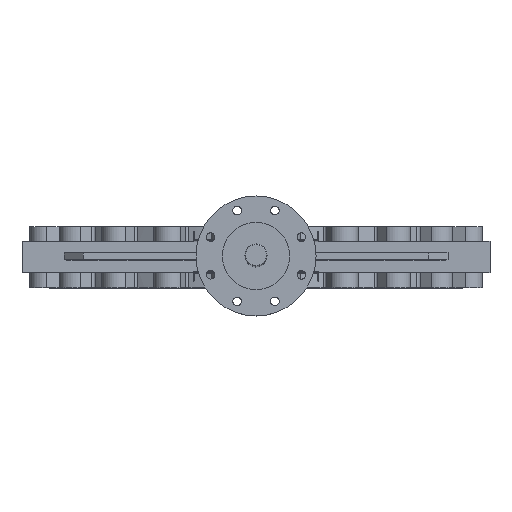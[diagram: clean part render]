
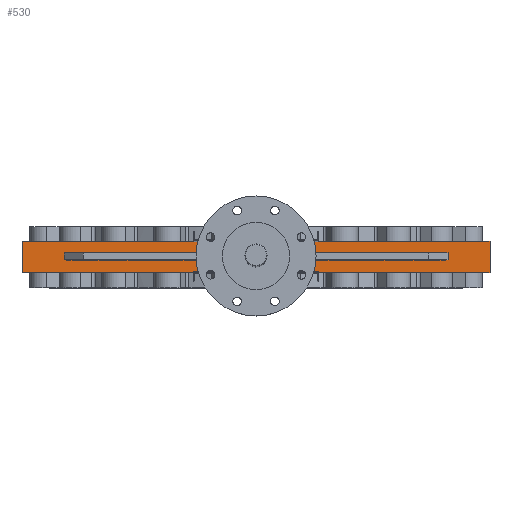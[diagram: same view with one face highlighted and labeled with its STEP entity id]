
A CAD part, top view. The second image highlights one B-rep face of the part: STEP entity #530.
In plain terms, the highlighted planar face has unit normal (0, 0, 1).
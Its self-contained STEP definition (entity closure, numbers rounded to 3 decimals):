
#530=ADVANCED_FACE('',(#3559,#3561),#3563,.T.);
#3559=FACE_BOUND('',#3560,.T.);
#3560=EDGE_LOOP('',(#6117,#6118,#6119,#6120,#6121,#6122,#6123,#6124,#6125,#6126,
#6127,#6128));
#3561=FACE_BOUND('',#3562,.T.);
#3562=EDGE_LOOP('',(#6129,#6130,#6131,#6132));
#3563=PLANE('',#3564);
#3564=AXIS2_PLACEMENT_3D('',#3565,#3566,#3567);
#3565=CARTESIAN_POINT('',(-487.5,-32.5,587.5));
#3566=DIRECTION('',(0.,0.,1.));
#3567=DIRECTION('',(1.,0.,0.));
#6117=ORIENTED_EDGE('',*,*,#7713,.T.);
#6118=ORIENTED_EDGE('',*,*,#7756,.T.);
#6119=ORIENTED_EDGE('',*,*,#7755,.F.);
#6120=ORIENTED_EDGE('',*,*,#7752,.F.);
#6121=ORIENTED_EDGE('',*,*,#7750,.T.);
#6122=ORIENTED_EDGE('',*,*,#7735,.T.);
#6123=ORIENTED_EDGE('',*,*,#7720,.T.);
#6124=ORIENTED_EDGE('',*,*,#7748,.T.);
#6125=ORIENTED_EDGE('',*,*,#7747,.T.);
#6126=ORIENTED_EDGE('',*,*,#7745,.T.);
#6127=ORIENTED_EDGE('',*,*,#7742,.F.);
#6128=ORIENTED_EDGE('',*,*,#7740,.T.);
#6129=ORIENTED_EDGE('',*,*,#7767,.T.);
#6130=ORIENTED_EDGE('',*,*,#7768,.T.);
#6131=ORIENTED_EDGE('',*,*,#7769,.T.);
#6132=ORIENTED_EDGE('',*,*,#7770,.T.);
#7713=EDGE_CURVE('',#8689,#8690,#8691,.T.);
#7720=EDGE_CURVE('',#8700,#8701,#8702,.F.);
#7735=EDGE_CURVE('',#8728,#8700,#8729,.F.);
#7740=EDGE_CURVE('',#8734,#8689,#8735,.T.);
#7742=EDGE_CURVE('',#8734,#8737,#8738,.T.);
#7745=EDGE_CURVE('',#8740,#8737,#8742,.T.);
#7747=EDGE_CURVE('',#8743,#8740,#8745,.T.);
#7748=EDGE_CURVE('',#8701,#8743,#8746,.F.);
#7750=EDGE_CURVE('',#8748,#8728,#8749,.T.);
#7752=EDGE_CURVE('',#8748,#8751,#8752,.T.);
#7755=EDGE_CURVE('',#8751,#8754,#8756,.T.);
#7756=EDGE_CURVE('',#8690,#8754,#8757,.T.);
#7767=EDGE_CURVE('',#8772,#8773,#8774,.T.);
#7768=EDGE_CURVE('',#8773,#8775,#8776,.T.);
#7769=EDGE_CURVE('',#8775,#8777,#8778,.F.);
#7770=EDGE_CURVE('',#8777,#8772,#8779,.F.);
#8689=VERTEX_POINT('',#10449);
#8690=VERTEX_POINT('',#10450);
#8691=LINE('',#10451,#10452);
#8700=VERTEX_POINT('',#10475);
#8701=VERTEX_POINT('',#10476);
#8702=LINE('',#10477,#10478);
#8728=VERTEX_POINT('',#10542);
#8729=LINE('',#10543,#10544);
#8734=VERTEX_POINT('',#10558);
#8735=LINE('',#10559,#10560);
#8737=VERTEX_POINT('',#10565);
#8738=LINE('',#10566,#10567);
#8740=VERTEX_POINT('',#10572);
#8742=LINE('',#10576,#10577);
#8743=VERTEX_POINT('',#10579);
#8745=LINE('',#10583,#10584);
#8746=LINE('',#10586,#10587);
#8748=VERTEX_POINT('',#10592);
#8749=LINE('',#10593,#10594);
#8751=VERTEX_POINT('',#10599);
#8752=LINE('',#10600,#10601);
#8754=VERTEX_POINT('',#10606);
#8756=LINE('',#10610,#10611);
#8757=LINE('',#10613,#10614);
#8772=VERTEX_POINT('',#10650);
#8773=VERTEX_POINT('',#10651);
#8774=LINE('',#10652,#10653);
#8775=VERTEX_POINT('',#10655);
#8776=LINE('',#10656,#10657);
#8777=VERTEX_POINT('',#10659);
#8778=LINE('',#10660,#10661);
#8779=LINE('',#10663,#10664);
#10449=CARTESIAN_POINT('',(130.,32.,587.5));
#10450=CARTESIAN_POINT('',(-130.,32.,587.5));
#10451=CARTESIAN_POINT('',(130.,32.,587.5));
#10452=VECTOR('',#10453,1.);
#10453=DIRECTION('',(-1.,0.,0.));
#10475=CARTESIAN_POINT('',(-130.,-32.,587.5));
#10476=CARTESIAN_POINT('',(130.,-32.,587.5));
#10477=CARTESIAN_POINT('',(130.,-32.,587.5));
#10478=VECTOR('',#10479,1.);
#10479=DIRECTION('',(-1.,0.,0.));
#10542=CARTESIAN_POINT('',(-130.,-32.5,587.5));
#10543=CARTESIAN_POINT('',(-130.,-32.,587.5));
#10544=VECTOR('',#10545,1.);
#10545=DIRECTION('',(0.,-1.,0.));
#10558=CARTESIAN_POINT('',(130.,32.5,587.5));
#10559=CARTESIAN_POINT('',(130.,32.5,587.5));
#10560=VECTOR('',#10561,1.);
#10561=DIRECTION('',(0.,-1.,0.));
#10565=CARTESIAN_POINT('',(487.5,32.5,587.5));
#10566=CARTESIAN_POINT('',(130.,32.5,587.5));
#10567=VECTOR('',#10568,1.);
#10568=DIRECTION('',(1.,0.,0.));
#10572=CARTESIAN_POINT('',(487.5,-32.5,587.5));
#10576=CARTESIAN_POINT('',(487.5,-32.5,587.5));
#10577=VECTOR('',#10578,1.);
#10578=DIRECTION('',(0.,1.,0.));
#10579=CARTESIAN_POINT('',(130.,-32.5,587.5));
#10583=CARTESIAN_POINT('',(130.,-32.5,587.5));
#10584=VECTOR('',#10585,1.);
#10585=DIRECTION('',(1.,0.,0.));
#10586=CARTESIAN_POINT('',(130.,-32.5,587.5));
#10587=VECTOR('',#10588,1.);
#10588=DIRECTION('',(0.,1.,0.));
#10592=CARTESIAN_POINT('',(-487.5,-32.5,587.5));
#10593=CARTESIAN_POINT('',(-487.5,-32.5,587.5));
#10594=VECTOR('',#10595,1.);
#10595=DIRECTION('',(1.,0.,0.));
#10599=CARTESIAN_POINT('',(-487.5,32.5,587.5));
#10600=CARTESIAN_POINT('',(-487.5,-32.5,587.5));
#10601=VECTOR('',#10602,1.);
#10602=DIRECTION('',(0.,1.,0.));
#10606=CARTESIAN_POINT('',(-130.,32.5,587.5));
#10610=CARTESIAN_POINT('',(-487.5,32.5,587.5));
#10611=VECTOR('',#10612,1.);
#10612=DIRECTION('',(1.,0.,0.));
#10613=CARTESIAN_POINT('',(-130.,32.,587.5));
#10614=VECTOR('',#10615,1.);
#10615=DIRECTION('',(0.,1.,0.));
#10650=CARTESIAN_POINT('',(145.752,7.,587.5));
#10651=CARTESIAN_POINT('',(145.752,-7.,587.5));
#10652=CARTESIAN_POINT('',(145.752,7.,587.5));
#10653=VECTOR('',#10654,1.);
#10654=DIRECTION('',(0.,-1.,0.));
#10655=CARTESIAN_POINT('',(-145.752,-7.,587.5));
#10656=CARTESIAN_POINT('',(145.752,-7.,587.5));
#10657=VECTOR('',#10658,1.);
#10658=DIRECTION('',(-1.,0.,0.));
#10659=CARTESIAN_POINT('',(-145.752,7.,587.5));
#10660=CARTESIAN_POINT('',(-145.752,7.,587.5));
#10661=VECTOR('',#10662,1.);
#10662=DIRECTION('',(0.,-1.,0.));
#10663=CARTESIAN_POINT('',(145.752,7.,587.5));
#10664=VECTOR('',#10665,1.);
#10665=DIRECTION('',(-1.,0.,0.));
